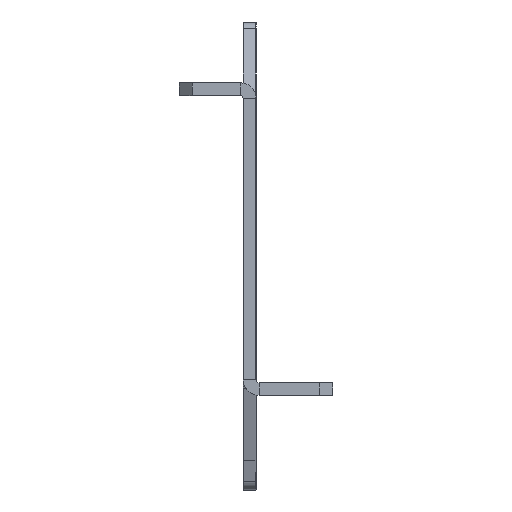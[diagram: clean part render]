
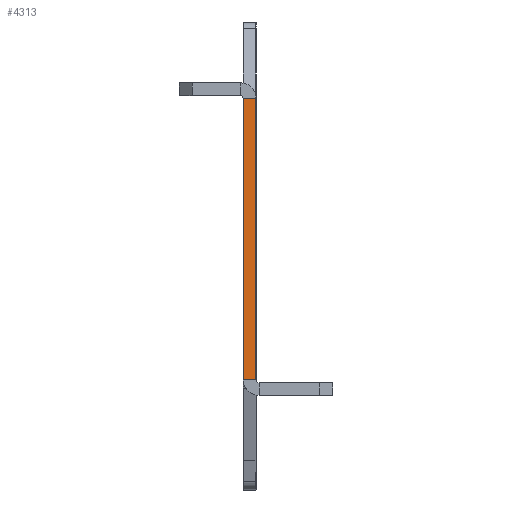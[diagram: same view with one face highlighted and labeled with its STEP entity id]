
A CAD part, left-side view. The second image highlights one B-rep face of the part: STEP entity #4313.
In plain terms, the highlighted planar face has unit normal (-1, 0, 0).
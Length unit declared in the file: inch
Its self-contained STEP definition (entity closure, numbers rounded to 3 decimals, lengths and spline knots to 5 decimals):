
#307=PLANE('',#4837);
#496=FACE_OUTER_BOUND('',#922,.T.);
#922=EDGE_LOOP('',(#3744,#3745,#3746,#3747));
#1168=LINE('',#7055,#1436);
#1192=LINE('',#7132,#1460);
#1238=LINE('',#7235,#1506);
#1239=LINE('',#7236,#1507);
#1436=VECTOR('',#5881,39.37008);
#1460=VECTOR('',#5935,39.37008);
#1506=VECTOR('',#6039,39.37008);
#1507=VECTOR('',#6040,39.37008);
#2160=VERTEX_POINT('',#7052);
#2161=VERTEX_POINT('',#7054);
#2198=VERTEX_POINT('',#7129);
#2199=VERTEX_POINT('',#7131);
#2679=EDGE_CURVE('',#2160,#2161,#1168,.T.);
#2717=EDGE_CURVE('',#2199,#2198,#1192,.T.);
#2774=EDGE_CURVE('',#2199,#2160,#1238,.T.);
#2775=EDGE_CURVE('',#2198,#2161,#1239,.T.);
#3744=ORIENTED_EDGE('',*,*,#2774,.F.);
#3745=ORIENTED_EDGE('',*,*,#2717,.T.);
#3746=ORIENTED_EDGE('',*,*,#2775,.T.);
#3747=ORIENTED_EDGE('',*,*,#2679,.F.);
#4313=ADVANCED_FACE('',(#496),#307,.F.);
#4837=AXIS2_PLACEMENT_3D('',#7234,#6037,#6038);
#5881=DIRECTION('',(0.,0.,1.));
#5935=DIRECTION('',(0.,0.,1.));
#6037=DIRECTION('center_axis',(1.,0.,0.));
#6038=DIRECTION('ref_axis',(0.,0.,1.));
#6039=DIRECTION('',(0.,1.,0.));
#6040=DIRECTION('',(0.,1.,0.));
#7052=CARTESIAN_POINT('',(0.,0.125,-2.75));
#7054=CARTESIAN_POINT('',(0.,0.125,0.));
#7055=CARTESIAN_POINT('',(0.,0.125,0.));
#7129=CARTESIAN_POINT('',(0.,0.,0.));
#7131=CARTESIAN_POINT('',(0.,0.,-2.75));
#7132=CARTESIAN_POINT('',(0.,0.,-2.75));
#7234=CARTESIAN_POINT('Origin',(0.,0.125,0.));
#7235=CARTESIAN_POINT('',(0.,0.125,-2.75));
#7236=CARTESIAN_POINT('',(0.,0.125,0.));
